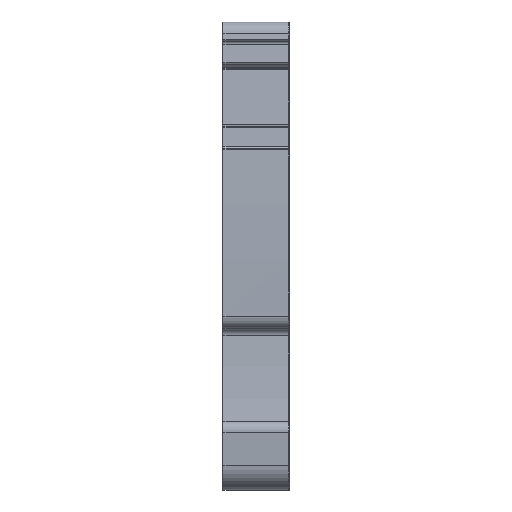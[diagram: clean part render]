
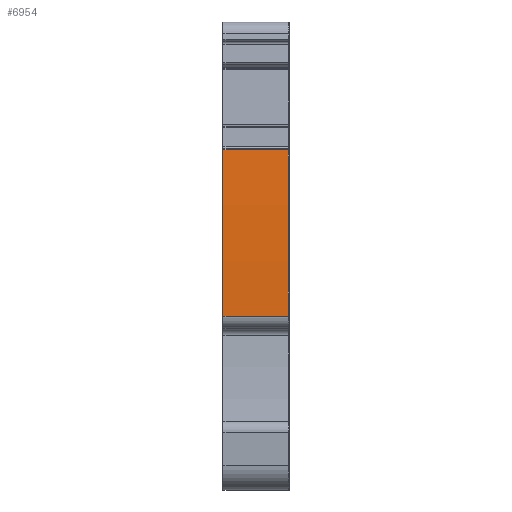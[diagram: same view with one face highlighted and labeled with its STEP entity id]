
A CAD part, front view. The second image highlights one B-rep face of the part: STEP entity #6954.
In plain terms, the highlighted cylindrical face has radius 154.9 mm (diameter 309.8 mm), a partial arc.
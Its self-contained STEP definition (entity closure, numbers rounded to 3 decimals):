
#1409=AXIS2_PLACEMENT_3D('Circle Axis2P3D',#1407,#1408,$) ;
#1416=AXIS2_PLACEMENT_3D('Circle Axis2P3D',#1414,#1415,$) ;
#6083=AXIS2_PLACEMENT_3D('Cylinder Axis2P3D',#6080,#6081,#6082) ;
#6944=AXIS2_PLACEMENT_3D('Circle Axis2P3D',#6942,#6943,$) ;
#1404=CARTESIAN_POINT('Vertex',(0.,1.529,13.427)) ;
#1407=CARTESIAN_POINT('Axis2P3D Location',(0.,2.529,13.45)) ;
#1411=CARTESIAN_POINT('Vertex',(0.,1.528,13.45)) ;
#1414=CARTESIAN_POINT('Axis2P3D Location',(0.,156.386,17.05)) ;
#1418=CARTESIAN_POINT('Vertex',(0.,1.761,26.266)) ;
#6080=CARTESIAN_POINT('Axis2P3D Location',(2.55,156.386,17.05)) ;
#6915=CARTESIAN_POINT('Line Origine',(2.55,1.761,26.266)) ;
#6919=CARTESIAN_POINT('Vertex',(5.05,1.761,26.266)) ;
#6935=CARTESIAN_POINT('Line Origine',(2.55,1.529,13.427)) ;
#6939=CARTESIAN_POINT('Vertex',(5.05,1.529,13.427)) ;
#6942=CARTESIAN_POINT('Axis2P3D Location',(5.05,156.386,17.05)) ;
#1408=DIRECTION('Axis2P3D Direction',(1.,0.,0.)) ;
#1415=DIRECTION('Axis2P3D Direction',(1.,0.,0.)) ;
#6081=DIRECTION('Axis2P3D Direction',(1.,0.,0.)) ;
#6082=DIRECTION('Axis2P3D XDirection',(0.,-0.993,0.118)) ;
#6916=DIRECTION('Vector Direction',(1.,0.,0.)) ;
#6936=DIRECTION('Vector Direction',(1.,0.,0.)) ;
#6943=DIRECTION('Axis2P3D Direction',(1.,0.,0.)) ;
#6917=VECTOR('Line Direction',#6916,1.) ;
#6937=VECTOR('Line Direction',#6936,1.) ;
#6948=ORIENTED_EDGE('',*,*,#6921,.T.) ;
#6949=ORIENTED_EDGE('',*,*,#1420,.T.) ;
#6950=ORIENTED_EDGE('',*,*,#1413,.T.) ;
#6951=ORIENTED_EDGE('',*,*,#6941,.T.) ;
#6952=ORIENTED_EDGE('',*,*,#6946,.F.) ;
#6954=ADVANCED_FACE('MLD_1',(#6953),#6084,.T.) ;
#1410=CIRCLE('generated circle',#1409,1.) ;
#1417=CIRCLE('generated circle',#1416,154.9) ;
#6945=CIRCLE('generated circle',#6944,154.9) ;
#6084=CYLINDRICAL_SURFACE('generated cylinder',#6083,154.9) ;
#1413=EDGE_CURVE('',#1412,#1405,#1410,.T.) ;
#1420=EDGE_CURVE('',#1419,#1412,#1417,.T.) ;
#6921=EDGE_CURVE('',#6920,#1419,#6918,.F.) ;
#6941=EDGE_CURVE('',#1405,#6940,#6938,.T.) ;
#6946=EDGE_CURVE('',#6920,#6940,#6945,.T.) ;
#6947=EDGE_LOOP('',(#6948,#6949,#6950,#6951,#6952)) ;
#6953=FACE_OUTER_BOUND('',#6947,.T.) ;
#6918=LINE('Line',#6915,#6917) ;
#6938=LINE('Line',#6935,#6937) ;
#1405=VERTEX_POINT('',#1404) ;
#1412=VERTEX_POINT('',#1411) ;
#1419=VERTEX_POINT('',#1418) ;
#6920=VERTEX_POINT('',#6919) ;
#6940=VERTEX_POINT('',#6939) ;
